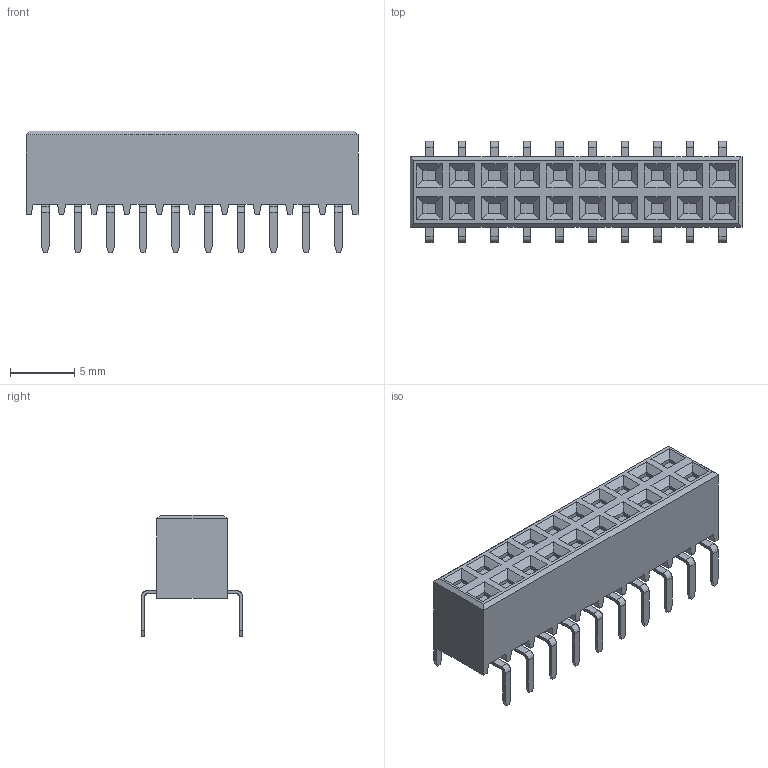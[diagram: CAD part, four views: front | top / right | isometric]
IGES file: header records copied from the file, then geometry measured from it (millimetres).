
Start section: SolidWorks IGES file using analytic representation for surfaces
Global section: file name: C:\Users\HISAKO.KAMIKAWA.FJ\Desktop\00_9072_220_901_883+.IGS; native system: SolidWorks 2017; preprocessor: SolidWorks 2017; author: HISAKO.KAMIKAWA.FJ; date: 191105.150658; units: millimetre
Bounding box: 25.86 x 7.87 x 9.5 mm (x, y, z)
Surface area: 943.1 mm2 (no closed solid volume)
Topology: 0 solids, 0 shells, 490 faces, 3000 edges, 3000 vertices
Faces by surface type: bspline 410, revolution 80
